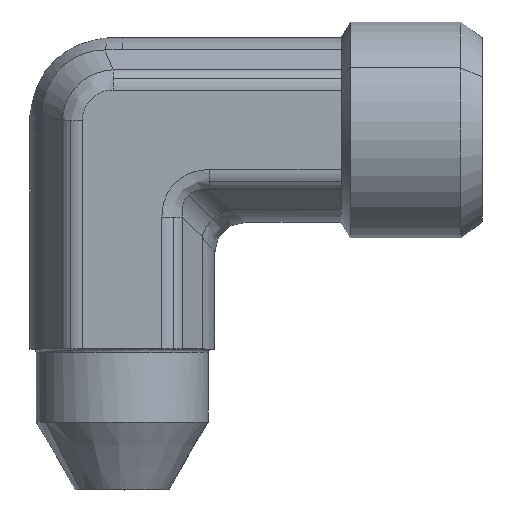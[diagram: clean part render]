
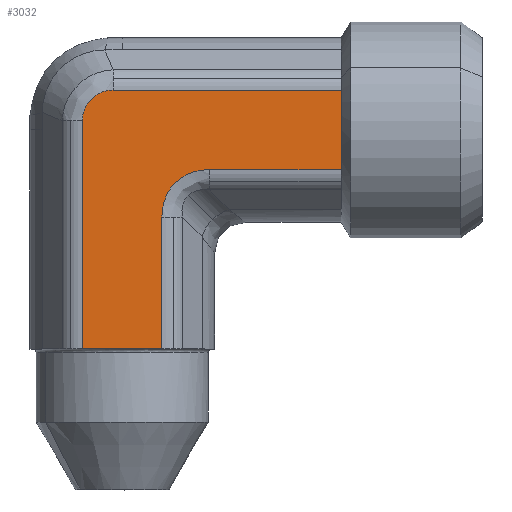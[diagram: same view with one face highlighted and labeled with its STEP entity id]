
A CAD part, top view. The second image highlights one B-rep face of the part: STEP entity #3032.
In plain terms, the highlighted planar face has unit normal (0, 0, 1) as drawn and (0, -1, 0) by its records, which use the part's own axes.
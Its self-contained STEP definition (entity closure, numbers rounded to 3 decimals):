
#361=CARTESIAN_POINT('',(1.071,-5.9,2.54));
#362=VERTEX_POINT('',#361);
#370=CARTESIAN_POINT('',(9.5,-5.9,2.54));
#371=VERTEX_POINT('',#370);
#372=CARTESIAN_POINT('',(1.071,-5.9,2.54));
#373=DIRECTION('',(1.0,0.0,0.0));
#374=VECTOR('',#373,8.429);
#375=LINE('',#372,#374);
#376=EDGE_CURVE('',#362,#371,#375,.T.);
#485=CARTESIAN_POINT('',(-7.04,-5.9,-0.585));
#486=VERTEX_POINT('',#485);
#494=CARTESIAN_POINT('',(-7.04,-5.9,14.0));
#495=VERTEX_POINT('',#494);
#496=CARTESIAN_POINT('',(-7.04,-5.9,-0.585));
#497=DIRECTION('',(0.0,0.0,1.0));
#498=VECTOR('',#497,14.585);
#499=LINE('',#496,#498);
#500=EDGE_CURVE('',#486,#495,#499,.T.);
#777=CARTESIAN_POINT('',(-4.5,-5.9,14.0));
#778=VERTEX_POINT('',#777);
#1615=CARTESIAN_POINT('',(9.5,-5.9,-2.54));
#1616=VERTEX_POINT('',#1615);
#1617=CARTESIAN_POINT('',(9.5,-5.9,-2.54));
#1618=DIRECTION('',(0.0,0.0,1.0));
#1619=VECTOR('',#1618,5.081);
#1620=LINE('',#1617,#1619);
#1621=EDGE_CURVE('',#1616,#371,#1620,.T.);
#2194=CARTESIAN_POINT('',(-1.96,-5.9,14.0));
#2195=VERTEX_POINT('',#2194);
#2196=CARTESIAN_POINT('',(-1.96,-5.9,14.0));
#2197=DIRECTION('',(-1.0,0.0,0.0));
#2198=VECTOR('',#2197,2.54);
#2199=LINE('',#2196,#2198);
#2200=EDGE_CURVE('',#2195,#778,#2199,.T.);
#2469=CARTESIAN_POINT('',(-4.5,-5.9,14.0));
#2470=DIRECTION('',(-1.0,0.0,0.0));
#2471=VECTOR('',#2470,2.54);
#2472=LINE('',#2469,#2471);
#2473=EDGE_CURVE('',#778,#495,#2472,.T.);
#2717=CARTESIAN_POINT('',(-5.085,-5.9,-2.54));
#2718=VERTEX_POINT('',#2717);
#2726=CARTESIAN_POINT('',(-7.04,-5.9,-0.585));
#2727=CARTESIAN_POINT('',(-7.04,-5.9,-0.712));
#2728=CARTESIAN_POINT('',(-7.027,-5.9,-0.841));
#2729=CARTESIAN_POINT('',(-6.961,-5.9,-1.168));
#2730=CARTESIAN_POINT('',(-6.889,-5.9,-1.36));
#2731=CARTESIAN_POINT('',(-6.626,-5.9,-1.825));
#2732=CARTESIAN_POINT('',(-6.394,-5.9,-2.068));
#2733=CARTESIAN_POINT('',(-5.806,-5.9,-2.436));
#2734=CARTESIAN_POINT('',(-5.446,-5.9,-2.54));
#2735=CARTESIAN_POINT('',(-5.085,-5.9,-2.54));
#2736=B_SPLINE_CURVE_WITH_KNOTS('',3,(#2726,#2727,#2728,#2729,#2730,#2731,#2732,#2733,#2734,#2735),.UNSPECIFIED.,.F.,.U.,(4,2,2,2,4),(-3.052,-2.67,-2.06,-1.083,0.0),.UNSPECIFIED.);
#2737=EDGE_CURVE('',#2718,#486,#2736,.F.);
#2764=CARTESIAN_POINT('',(9.5,-5.9,-2.54));
#2765=DIRECTION('',(-1.0,0.0,0.0));
#2766=VECTOR('',#2765,14.585);
#2767=LINE('',#2764,#2766);
#2768=EDGE_CURVE('',#1616,#2718,#2767,.T.);
#2900=CARTESIAN_POINT('',(-1.96,-5.9,5.571));
#2901=VERTEX_POINT('',#2900);
#2902=CARTESIAN_POINT('',(-1.96,-5.9,14.0));
#2903=DIRECTION('',(0.0,0.0,-1.0));
#2904=VECTOR('',#2903,8.429);
#2905=LINE('',#2902,#2904);
#2906=EDGE_CURVE('',#2195,#2901,#2905,.T.);
#2989=CARTESIAN_POINT('',(2.082,-5.9,6.582));
#2990=DIRECTION('',(0.,-1.0,0.));
#2991=DIRECTION('',(-0.707,0.,-0.707));
#2992=AXIS2_PLACEMENT_3D('',#2989,#2990,#2991);
#2993=ELLIPSE('',#2992,4.518,3.5);
#2994=EDGE_CURVE('',#2901,#362,#2993,.T.);
#3016=CARTESIAN_POINT('',(-4.5,-5.9,-3.175));
#3017=DIRECTION('',(0.0,-1.0,0.0));
#3018=DIRECTION('',(0.0,0.0,-1.0));
#3019=AXIS2_PLACEMENT_3D('',#3016,#3017,#3018);
#3020=PLANE('',#3019);
#3021=ORIENTED_EDGE('',*,*,#2768,.F.);
#3022=ORIENTED_EDGE('',*,*,#1621,.T.);
#3023=ORIENTED_EDGE('',*,*,#376,.F.);
#3024=ORIENTED_EDGE('',*,*,#2994,.F.);
#3025=ORIENTED_EDGE('',*,*,#2906,.F.);
#3026=ORIENTED_EDGE('',*,*,#2200,.T.);
#3027=ORIENTED_EDGE('',*,*,#2473,.T.);
#3028=ORIENTED_EDGE('',*,*,#500,.F.);
#3029=ORIENTED_EDGE('',*,*,#2737,.F.);
#3030=EDGE_LOOP('',(#3021,#3022,#3023,#3024,#3025,#3026,#3027,#3028,#3029));
#3031=FACE_OUTER_BOUND('',#3030,.T.);
#3032=ADVANCED_FACE('',(#3031),#3020,.T.);
